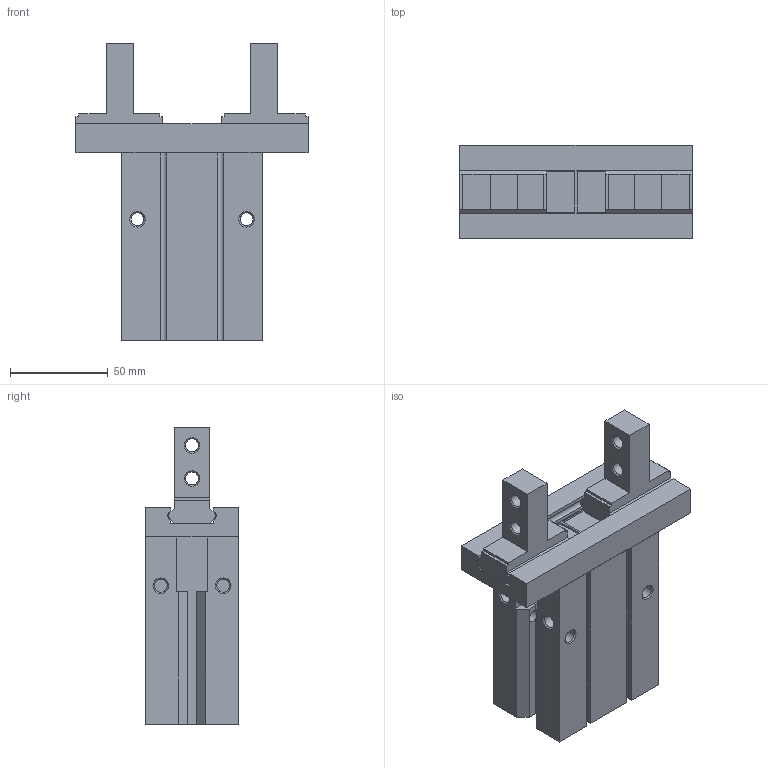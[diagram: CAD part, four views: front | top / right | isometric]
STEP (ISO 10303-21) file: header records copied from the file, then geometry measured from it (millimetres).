
FILE_DESCRIPTION( ( 'STEP AP214' ), '1' );
FILE_NAME( 'F:/CRG-3D-PAN-XU/CRG-chan pin kai fa cun dang - xu/协助/样品整理/平行夹/MHZ2-40S_60_0_.stp', '2023-03-07T10:06:38', ( '' ), ( '' ), ' ', 'PARTsolutions', ' ' );
FILE_SCHEMA( ( 'AUTOMOTIVE_DESIGN { 1 0 10303 214 1 1 1 1 }' ) );
Length unit declared in the file: millimetre
Products named in the file (3): MHZ2-40S(60_0); _MHZ2-40S_Body(0); _MHZ2-40S_Finger(0)
Assembly tree (3 placements, depth 2):
  MHZ2-40S(60_0)
    _MHZ2-40S_Body(0)
    _MHZ2-40S_Finger(0)  x2
Bounding box: 119 x 48 x 152 mm (x, y, z)
Volume: 389582.1 mm3; surface area: 66315.3 mm2
Topology: 3 solids, 3 shells, 197 faces, 511 edges, 331 vertices
Faces by surface type: plane 147, cylinder 29, cone 21
Full cylindrical faces by diameter (mm): 4.134 x1, 5 x1, 6.6 x4, 6.647 x12, 42 x1
Entity records: 5976 total; most frequent: CARTESIAN_POINT 802, DIRECTION 782, ORIENTED_EDGE 750, EDGE_CURVE 375, LINE 296, VECTOR 296, VERTEX_POINT 263, AXIS2_PLACEMENT_3D 243
